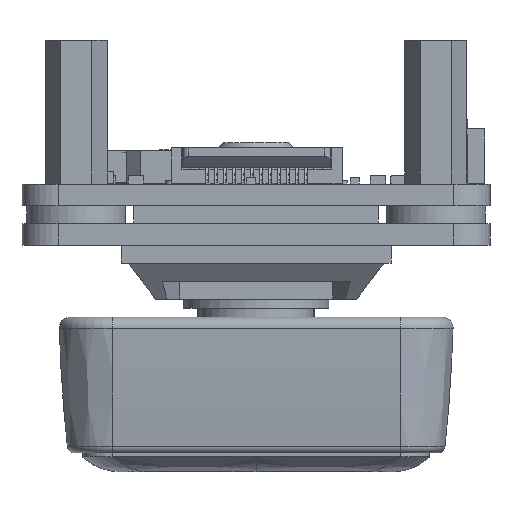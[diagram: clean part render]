
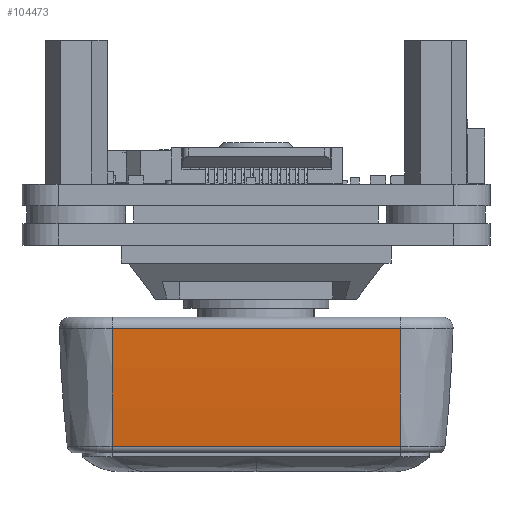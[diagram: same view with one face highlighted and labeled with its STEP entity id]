
A CAD part, front view. The second image highlights one B-rep face of the part: STEP entity #104473.
In plain terms, the highlighted cylindrical face has radius 80 mm (diameter 160 mm), a partial arc.
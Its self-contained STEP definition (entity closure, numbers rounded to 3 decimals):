
#99274=CARTESIAN_POINT('',(8.01,7.906,67.406));
#99275=DIRECTION('',(-1.,0.,0.));
#99276=DIRECTION('',(0.,-0.027,-1.));
#99277=AXIS2_PLACEMENT_3D('',#99274,#99275,#99276);
#99515=CARTESIAN_POINT('',(-8.01,7.906,
67.406));
#99516=DIRECTION('',(1.,0.,0.));
#99517=DIRECTION('',(0.,-0.109,
-0.994));
#99518=AXIS2_PLACEMENT_3D('',#99515,#99516,#99517);
#99562=DIRECTION('',(1.,0.,0.));
#99563=VECTOR('',#99562,16.02);
#99564=CARTESIAN_POINT('',(-8.01,-0.793,-12.12));
#99565=LINE('',#99564,#99563);
#99569=DIRECTION('',(-1.,0.,0.));
#99570=VECTOR('',#99569,16.02);
#99571=CARTESIAN_POINT('',(8.01,5.784,-12.566));
#99572=LINE('',#99571,#99570);
#104018=CARTESIAN_POINT('',(-8.01,-0.793,-12.12));
#104019=VERTEX_POINT('',#104018);
#104020=CARTESIAN_POINT('',(-8.01,5.784,-12.566));
#104021=VERTEX_POINT('',#104020);
#104022=CARTESIAN_POINT('',(8.01,-0.793,-12.12));
#104023=VERTEX_POINT('',#104022);
#104024=CARTESIAN_POINT('',(8.01,5.784,-12.566));
#104025=VERTEX_POINT('',#104024);
#104461=CARTESIAN_POINT('',(-8.01,7.906,67.406));
#104462=DIRECTION('',(1.,0.,0.));
#104463=DIRECTION('',(0.,0.,1.));
#104464=AXIS2_PLACEMENT_3D('',#104461,#104462,#104463);
#104465=CYLINDRICAL_SURFACE('',#104464,80.);
#104466=ORIENTED_EDGE('',*,*,#104453,.T.);
#104467=ORIENTED_EDGE('',*,*,#104264,.F.);
#104469=ORIENTED_EDGE('',*,*,#104468,.T.);
#104470=ORIENTED_EDGE('',*,*,#104427,.F.);
#104471=EDGE_LOOP('',(#104466,#104467,#104469,#104470));
#104472=FACE_OUTER_BOUND('',#104471,.F.);
#104473=ADVANCED_FACE('',(#104472),#104465,.T.);
#99278=CIRCLE('',#99277,80.);
#99519=CIRCLE('',#99518,80.);
#104264=EDGE_CURVE('',#104025,#104023,#99278,.T.);
#104427=EDGE_CURVE('',#104019,#104021,#99519,.T.);
#104453=EDGE_CURVE('',#104019,#104023,#99565,.T.);
#104468=EDGE_CURVE('',#104025,#104021,#99572,.T.);
